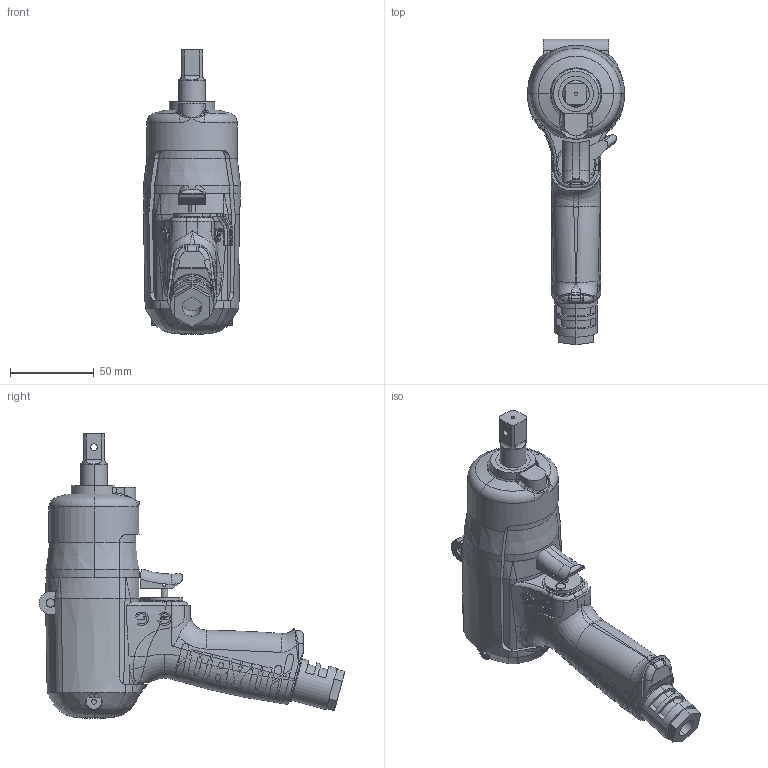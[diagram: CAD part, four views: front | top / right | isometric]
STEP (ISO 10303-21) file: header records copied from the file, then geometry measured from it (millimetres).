
FILE_DESCRIPTION (( 'STEP AP203' ), '1' );
FILE_NAME ('UL90.step', '2006-01-30T05:47:35', ( '山田　善嗣' ), ( 'TECH' ), 'SwSTEP 2.0', 'SolidWorks 2004073', '' );
FILE_SCHEMA (( 'CONFIG_CONTROL_DESIGN' ));
Length unit declared in the file: millimetre
Products named in the file (8): 1433199_UL90_蹬怮椔; 1472128_UL90_蹬怮椔; UL90; 1471072_UL90_蹬怮椔; 1478422_UL90_蹬怮椔; 1438409_UL90_蹬怮椔; 1430259_UL90_蹬怮椔; 1434399_UL90_蹬怮椔
Assembly tree (7 placements, depth 2):
  UL90
    1433199_UL90_蹬怮椔
    1430259_UL90_蹬怮椔
    1478422_UL90_蹬怮椔
    1438409_UL90_蹬怮椔
    1471072_UL90_蹬怮椔
    1472128_UL90_蹬怮椔
    1434399_UL90_蹬怮椔
Bounding box: 58 x 182.63 x 169.82 mm (x, y, z)
Volume: 441221.7 mm3; surface area: 108477 mm2
Topology: 7 solids, 7 shells, 1420 faces, 3970 edges, 2561 vertices
Faces by surface type: plane 825, cylinder 237, bspline 226, torus 66, cone 54, sphere 12
Entity records: 147086 total; most frequent: CARTESIAN_POINT 114249, ORIENTED_EDGE 7878, DIRECTION 5025, EDGE_CURVE 3939, VERTEX_POINT 2559, AXIS2_PLACEMENT_3D 1751, VECTOR 1523, LINE 1523
